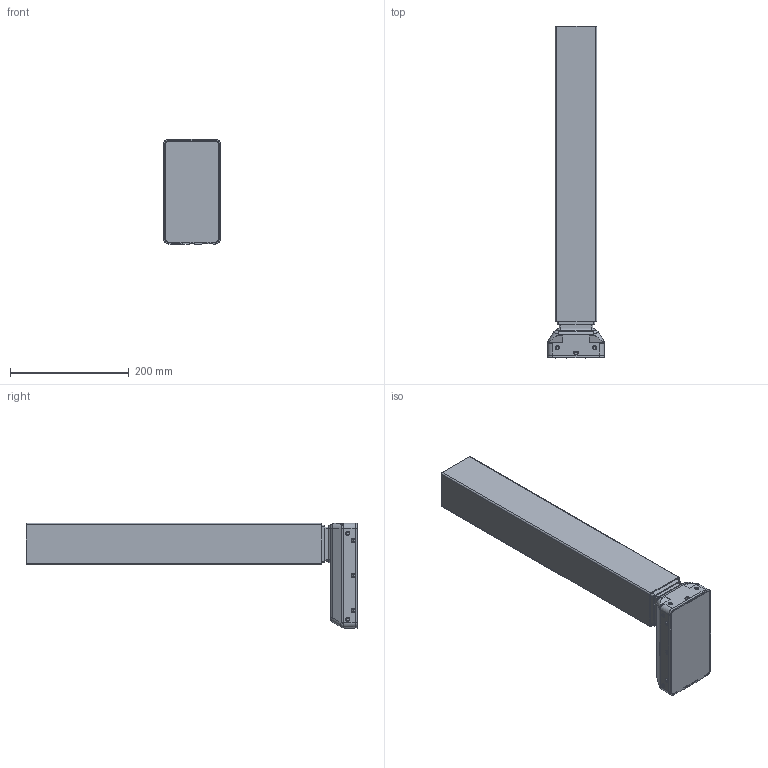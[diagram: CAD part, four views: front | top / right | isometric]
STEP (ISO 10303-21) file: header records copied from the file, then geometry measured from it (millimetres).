
FILE_DESCRIPTION((''),'2;1');
FILE_NAME('DL19PLUS_ASM','2019-01-17T09:32:12',('bs'),(''),'CREO PARAMETRIC BY PTC INC, 2017260','CREO PARAMETRIC BY PTC INC, 2017260','');
FILE_SCHEMA(('AUTOMOTIVE_DESIGN { 1 0 10303 214 1 1 1 1 }'));
Length unit declared in the file: millimetre
Products named in the file (4): DL19PLUS_MOTORHUS_STANDARD; DL19PLUS_MELLEMPROFIL; DL19PLUS_YDERPROFILE; DL19PLUS_ASM
Assembly tree (3 placements, depth 2):
  DL19PLUS_ASM
    DL19PLUS_MOTORHUS_STANDARD
    DL19PLUS_MELLEMPROFIL
    DL19PLUS_YDERPROFILE
Bounding box: 96.5 x 560 x 178.6 mm (x, y, z)
Volume: 5128769.9 mm3; surface area: 344172.9 mm2
Topology: 3 solids, 4 shells, 870 faces, 2382 edges, 1541 vertices
Faces by surface type: plane 371, cylinder 335, torus 86, bspline 44, cone 20, sphere 14
Entity records: 34575 total; most frequent: CARTESIAN_POINT 10316, ORIENTED_EDGE 4734, DIRECTION 4556, EDGE_CURVE 2367, AXIS2_PLACEMENT_3D 1679, VERTEX_POINT 1541, VECTOR 1198, LINE 1198
